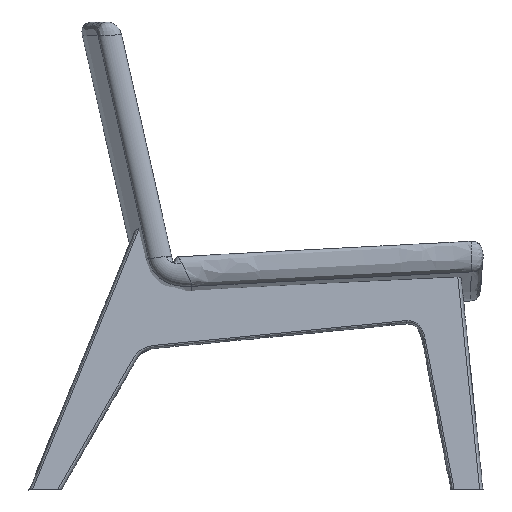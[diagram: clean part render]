
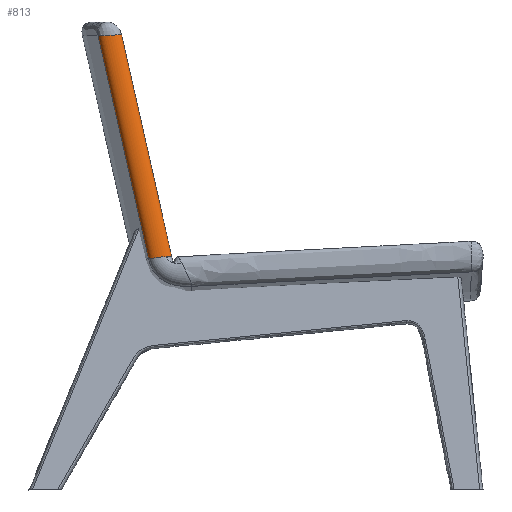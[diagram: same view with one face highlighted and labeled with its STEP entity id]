
A CAD part, left-side view. The second image highlights one B-rep face of the part: STEP entity #813.
In plain terms, the highlighted free-form (B-spline) face has degree [1, 5] with [2, 6] control points.
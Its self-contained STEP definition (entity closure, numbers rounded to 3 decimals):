
#57=B_SPLINE_SURFACE_WITH_KNOTS('',1,5,((#7721,#7722,#7723,#7724,#7725,
#7726),(#7727,#7728,#7729,#7730,#7731,#7732)),.UNSPECIFIED.,.F.,.F.,.F.,
(2,2),(6,6),(-291.352,117.539),(0.,57.507),
 .UNSPECIFIED.);
#813=ADVANCED_FACE('',(#937),#57,.T.);
#937=FACE_OUTER_BOUND('',#1069,.T.);
#1069=EDGE_LOOP('',(#1458,#1459,#1460,#1461,#1462));
#1458=ORIENTED_EDGE('',*,*,#2006,.F.);
#1459=ORIENTED_EDGE('',*,*,#2009,.T.);
#1460=ORIENTED_EDGE('',*,*,#1994,.F.);
#1461=ORIENTED_EDGE('',*,*,#2007,.T.);
#1462=ORIENTED_EDGE('',*,*,#2008,.T.);
#1994=EDGE_CURVE('',#2589,#2590,#2898,.T.);
#2006=EDGE_CURVE('',#2598,#2599,#2910,.T.);
#2007=EDGE_CURVE('',#2589,#2600,#2911,.T.);
#2008=EDGE_CURVE('',#2600,#2599,#2912,.T.);
#2009=EDGE_CURVE('',#2598,#2590,#2913,.T.);
#2589=VERTEX_POINT('',#12858);
#2590=VERTEX_POINT('',#12859);
#2598=VERTEX_POINT('',#12867);
#2599=VERTEX_POINT('',#12868);
#2600=VERTEX_POINT('',#12869);
#2898=B_SPLINE_CURVE_WITH_KNOTS('',3,(#13006,#13007,#13008,#13009,#13010,
#13011,#13012,#13013,#13014,#13015,#13016,#13017,#13018,#13019,#13020,#13021,
#13022,#13023,#13024,#13025,#13026,#13027,#13028,#13029),.UNSPECIFIED.,
 .F.,.F.,(4,1,1,1,1,1,1,1,1,1,1,1,1,1,1,1,1,1,1,1,1,4),(-65.422,
-63.312,-61.201,-59.091,-56.981,
-54.87,-52.76,-50.649,-48.539,
-46.429,-44.318,-42.208,-40.097,
-37.987,-35.877,-33.766,-31.656,
-29.545,-27.435,-25.325,-23.214,
-21.104),.UNSPECIFIED.);
#2910=B_SPLINE_CURVE_WITH_KNOTS('',1,(#13194,#13195),.UNSPECIFIED.,.F.,
 .F.,(2,2),(-117.539,291.352),.UNSPECIFIED.);
#2911=B_SPLINE_CURVE_WITH_KNOTS('',1,(#13196,#13197),.UNSPECIFIED.,.F.,
 .F.,(2,2),(-117.539,291.352),.UNSPECIFIED.);
#2912=B_SPLINE_CURVE_WITH_KNOTS('',3,(#13198,#13199,#13200,#13201,#13202,
#13203,#13204,#13205,#13206,#13207,#13208,#13209,#13210,#13211,#13212,#13213,
#13214,#13215,#13216,#13217,#13218,#13219,#13220,#13221,#13222,#13223,#13224,
#13225,#13226,#13227,#13228,#13229,#13230,#13231,#13232),.UNSPECIFIED.,
 .F.,.F.,(4,2,2,2,2,2,2,1,1,1,2,2,2,2,2,2,2,2,4),(-62.05,-58.206,
-54.362,-50.517,-46.673,-42.829,
-38.984,-33.252,-31.296,-29.34,
-27.384,-23.472,-19.56,-15.648,
-11.736,-9.78,-7.824,-3.912,
0.),.UNSPECIFIED.);
#2913=B_SPLINE_CURVE_WITH_KNOTS('',3,(#13233,#13234,#13235,#13236,#13237,
#13238,#13239,#13240,#13241,#13242,#13243,#13244,#13245,#13246,#13247),
 .UNSPECIFIED.,.F.,.F.,(4,1,1,1,1,1,1,1,1,1,1,1,4),(0.,1.444,
2.889,4.333,5.778,7.222,8.666,
10.111,11.555,13.,14.444,15.888,
17.333),.UNSPECIFIED.);
#7721=CARTESIAN_POINT('',(-673.19,604.535,769.829));
#7722=CARTESIAN_POINT('',(-682.811,602.976,769.832));
#7723=CARTESIAN_POINT('',(-692.423,601.363,769.847));
#7724=CARTESIAN_POINT('',(-692.546,640.509,767.886));
#7725=CARTESIAN_POINT('',(-682.934,642.122,767.871));
#7726=CARTESIAN_POINT('',(-673.313,643.681,767.868));
#7727=CARTESIAN_POINT('',(-673.181,519.436,393.746));
#7728=CARTESIAN_POINT('',(-682.843,518.543,396.303));
#7729=CARTESIAN_POINT('',(-692.497,517.598,398.871));
#7730=CARTESIAN_POINT('',(-692.871,555.397,392.089));
#7731=CARTESIAN_POINT('',(-683.092,557.018,391.93));
#7732=CARTESIAN_POINT('',(-673.305,558.582,391.784));
#12858=CARTESIAN_POINT('',(-673.305,558.582,391.784));
#12859=CARTESIAN_POINT('',(-687.078,528.029,395.809));
#12867=CARTESIAN_POINT('',(-673.181,519.436,393.746));
#12868=CARTESIAN_POINT('',(-673.19,604.535,769.829));
#12869=CARTESIAN_POINT('',(-673.313,643.681,767.868));
#13006=CARTESIAN_POINT('',(-673.305,558.582,391.784));
#13007=CARTESIAN_POINT('',(-673.914,558.485,391.794));
#13008=CARTESIAN_POINT('',(-675.133,558.289,391.812));
#13009=CARTESIAN_POINT('',(-676.939,557.887,391.859));
#13010=CARTESIAN_POINT('',(-678.651,557.319,391.936));
#13011=CARTESIAN_POINT('',(-680.317,556.503,392.056));
#13012=CARTESIAN_POINT('',(-681.825,555.45,392.217));
#13013=CARTESIAN_POINT('',(-683.16,554.184,392.413));
#13014=CARTESIAN_POINT('',(-684.31,552.752,392.636));
#13015=CARTESIAN_POINT('',(-685.283,551.197,392.877));
#13016=CARTESIAN_POINT('',(-686.097,549.555,393.129));
#13017=CARTESIAN_POINT('',(-686.768,547.854,393.386));
#13018=CARTESIAN_POINT('',(-687.315,546.092,393.647));
#13019=CARTESIAN_POINT('',(-687.741,544.321,393.905));
#13020=CARTESIAN_POINT('',(-688.064,542.521,394.16));
#13021=CARTESIAN_POINT('',(-688.286,540.708,394.41));
#13022=CARTESIAN_POINT('',(-688.414,538.884,394.653));
#13023=CARTESIAN_POINT('',(-688.448,537.055,394.886));
#13024=CARTESIAN_POINT('',(-688.388,535.223,395.109));
#13025=CARTESIAN_POINT('',(-688.232,533.406,395.315));
#13026=CARTESIAN_POINT('',(-687.971,531.587,395.506));
#13027=CARTESIAN_POINT('',(-687.599,529.793,395.674));
#13028=CARTESIAN_POINT('',(-687.268,528.614,395.768));
#13029=CARTESIAN_POINT('',(-687.078,528.029,395.809));
#13194=CARTESIAN_POINT('',(-673.181,519.436,393.746));
#13195=CARTESIAN_POINT('',(-673.19,604.535,769.829));
#13196=CARTESIAN_POINT('',(-673.305,558.582,391.784));
#13197=CARTESIAN_POINT('',(-673.313,643.681,767.868));
#13198=CARTESIAN_POINT('',(-673.313,643.681,767.868));
#13199=CARTESIAN_POINT('',(-674.533,643.485,767.868));
#13200=CARTESIAN_POINT('',(-675.756,643.279,767.869));
#13201=CARTESIAN_POINT('',(-678.133,642.593,767.885));
#13202=CARTESIAN_POINT('',(-679.283,642.107,767.901));
#13203=CARTESIAN_POINT('',(-681.374,640.785,767.952));
#13204=CARTESIAN_POINT('',(-682.31,639.958,767.986));
#13205=CARTESIAN_POINT('',(-683.922,638.084,768.068));
#13206=CARTESIAN_POINT('',(-684.604,637.044,768.115));
#13207=CARTESIAN_POINT('',(-685.757,634.859,768.217));
#13208=CARTESIAN_POINT('',(-686.231,633.713,768.27));
#13209=CARTESIAN_POINT('',(-687.016,631.371,768.382));
#13210=CARTESIAN_POINT('',(-687.328,630.175,768.44));
#13211=CARTESIAN_POINT('',(-687.937,627.152,768.587));
#13212=CARTESIAN_POINT('',(-688.229,624.719,768.707));
#13213=CARTESIAN_POINT('',(-688.293,621.551,768.865));
#13214=CARTESIAN_POINT('',(-688.245,619.912,768.947));
#13215=CARTESIAN_POINT('',(-688.162,618.763,769.005));
#13216=CARTESIAN_POINT('',(-687.993,617.073,769.091));
#13217=CARTESIAN_POINT('',(-687.825,615.947,769.149));
#13218=CARTESIAN_POINT('',(-687.353,613.728,769.263));
#13219=CARTESIAN_POINT('',(-687.051,612.631,769.32));
#13220=CARTESIAN_POINT('',(-686.267,610.501,769.433));
#13221=CARTESIAN_POINT('',(-685.786,609.466,769.488));
#13222=CARTESIAN_POINT('',(-684.579,607.545,769.593));
#13223=CARTESIAN_POINT('',(-683.846,606.659,769.643));
#13224=CARTESIAN_POINT('',(-682.523,605.584,769.706));
#13225=CARTESIAN_POINT('',(-682.046,605.27,769.726));
#13226=CARTESIAN_POINT('',(-681.034,604.753,769.759));
#13227=CARTESIAN_POINT('',(-680.501,604.551,769.773));
#13228=CARTESIAN_POINT('',(-678.852,604.111,769.807));
#13229=CARTESIAN_POINT('',(-677.704,604.048,769.819));
#13230=CARTESIAN_POINT('',(-675.436,604.172,769.83));
#13231=CARTESIAN_POINT('',(-674.311,604.353,769.83));
#13232=CARTESIAN_POINT('',(-673.19,604.535,769.829));
#13233=CARTESIAN_POINT('',(-673.181,519.436,393.746));
#13234=CARTESIAN_POINT('',(-673.675,519.39,393.876));
#13235=CARTESIAN_POINT('',(-674.661,519.299,394.137));
#13236=CARTESIAN_POINT('',(-676.147,519.222,394.52));
#13237=CARTESIAN_POINT('',(-677.642,519.262,394.884));
#13238=CARTESIAN_POINT('',(-679.128,519.474,395.216));
#13239=CARTESIAN_POINT('',(-680.581,519.911,395.501));
#13240=CARTESIAN_POINT('',(-681.945,520.595,395.723));
#13241=CARTESIAN_POINT('',(-683.177,521.509,395.876));
#13242=CARTESIAN_POINT('',(-684.251,522.612,395.96));
#13243=CARTESIAN_POINT('',(-685.164,523.85,395.986));
#13244=CARTESIAN_POINT('',(-685.932,525.184,395.964));
#13245=CARTESIAN_POINT('',(-686.57,526.582,395.903));
#13246=CARTESIAN_POINT('',(-686.92,527.544,395.843));
#13247=CARTESIAN_POINT('',(-687.078,528.029,395.809));
